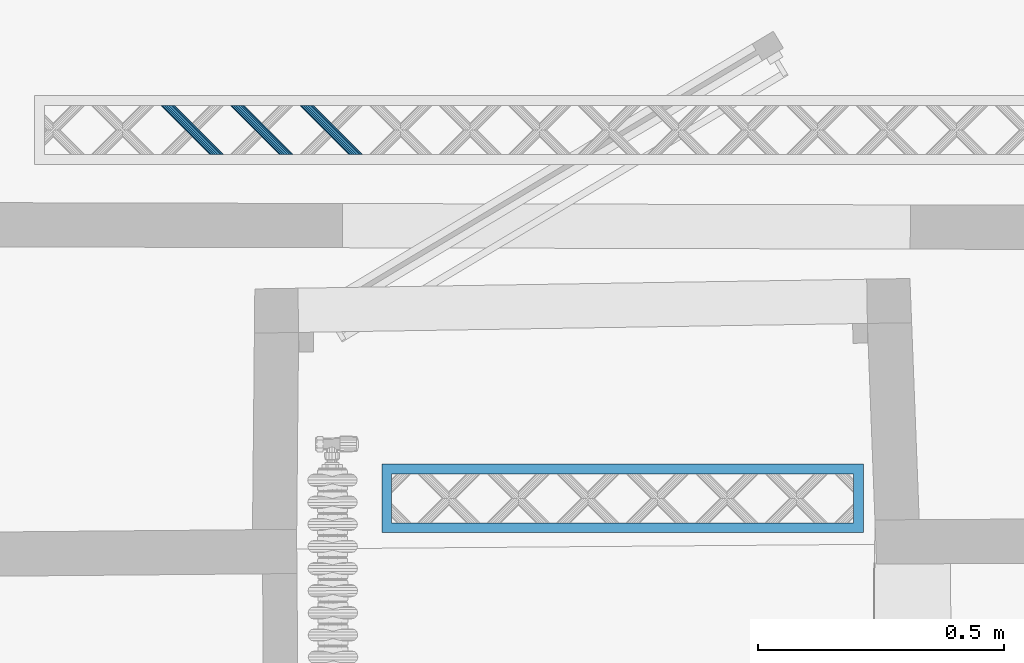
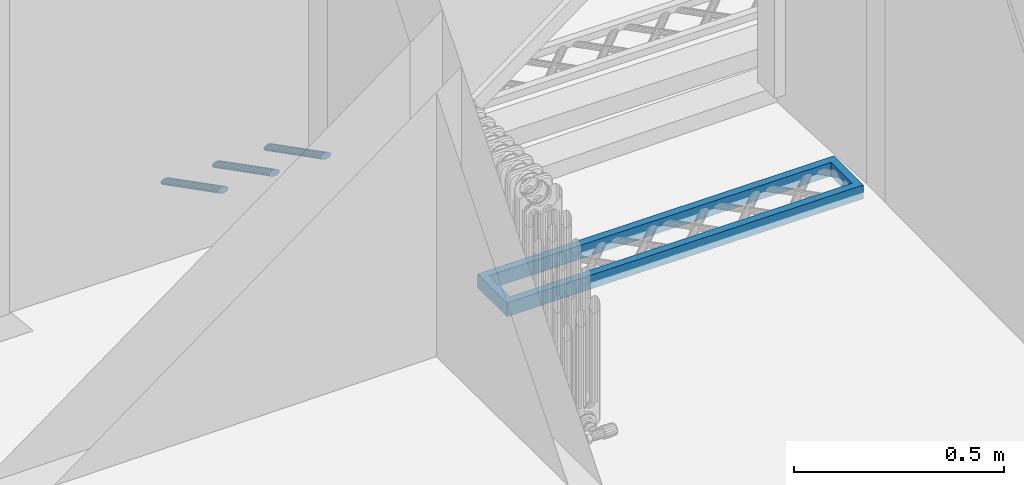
# One storey, part 64 of 133: 4 members, 2 elements without a shape of their own.
"""IFC2X3 building model written with IfcOpenShell, lengths in centimetres."""

from ifc_helpers import new_model, entity, si_unit, converted_unit, direction, frame, origin, origin_with_axes, place, context, subcontext, project, spatial, faceted_brep, material, type_object, element, aggregate, save


model = new_model("IFC2X3")

# Units and contexts
model_context = context("Model", 3, precision=0.0001, world=origin(), true_north=direction((0.225632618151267, 0.974212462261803, 0.0)))
body_context = subcontext(model_context, "Body", "Model", "MODEL_VIEW")
ifc_project = project(units=[si_unit("LENGTHUNIT", "METRE", prefix="CENTI"), si_unit("AREAUNIT", "SQUARE_METRE", prefix="CENTI"), si_unit("VOLUMEUNIT", "CUBIC_METRE", prefix="CENTI"), converted_unit("PLANEANGLEUNIT", "DEGREE", entity("IfcRatioMeasure", 0.0174532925), si_unit("PLANEANGLEUNIT", "RADIAN"), dimensions=[0, 0, 0, 0, 0, 0, 0])], contexts=[model_context])

# Site, building, storey
site_placement = place(None, origin_with_axes())
site = spatial("IfcSite", under=ifc_project, at=site_placement, Name="Default Site", CompositionType="ELEMENT")
building_placement = place(site_placement, origin_with_axes())
building = spatial("IfcBuilding", under=site, at=building_placement, Name="Default Building", CompositionType="ELEMENT")
storey_placement = place(building_placement, frame((0.0, 0.0, -291.400371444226), z_axis=(0.0, 0.0, 1.0), x_axis=(1.0, 0.0, 0.0)))
storey = spatial("IfcBuildingStorey", under=building, at=storey_placement, Name="Rez-de-Jardin", CompositionType="ELEMENT", Elevation=-291.400371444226)

# Assembly, members
building_element_proxy_type = type_object("IfcBuildingElementProxyType", Name="Type Object", PredefinedType="NOTDEFINED")
assembly_1_placement = place(storey_placement, frame((-322.682568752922, 627.125798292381, 0.0), z_axis=(0.0, 1.0, -2.38697950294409e-15), x_axis=(1.0, 0.0, 0.0)))
assembly_1 = element("IfcElementAssembly", 1, at=assembly_1_placement, inside=storey, type_object=building_element_proxy_type, Name="Panneau 92029", ObjectType="Precast panel", PredefinedType="USERDEFINED")
ifc_material = material(Name="Aluminium satiné")
member_1_placement = place(assembly_1_placement, frame((64.0314638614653, 0.342020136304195, 1.99999995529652), z_axis=(1.16937776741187e-15, 1.43218081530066e-15, -1.0), x_axis=(-0.632457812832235, -0.774594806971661, -1.84894192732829e-15)))
member_1 = element("IfcMember", 2, at=member_1_placement, material=ifc_material, Name="4294966800", context=body_context, shape_type="Brep", body=[
    faceted_brep([(-4.44089209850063e-14, 4.9960036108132e-14, 7.42461647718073e-14), (-0.388290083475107, 4.9960036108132e-14, 7.49640905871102e-14), (-0.799166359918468, -0.150246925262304, 7.57237769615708e-14), (-1.18307325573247, -0.43262135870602, 7.64335985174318e-14), (-1.49370756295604, -0.813066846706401, 7.70079433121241e-14), (-1.69359804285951, -1.24569095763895, 7.73775292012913e-14), (-1.75863665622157, -1.67831484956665, 7.74977818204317e-14), (-1.68098087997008, -2.05876033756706, 7.73542007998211e-14), (-1.4699913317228, -2.34113289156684, 7.69640933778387e-14), (-1.15112683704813, -2.49138695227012, 7.63745314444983e-14), (-0.762836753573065, -2.49138695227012, 7.56566056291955e-14), (-0.351960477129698, -2.34114002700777, 7.48969192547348e-14), (0.0319464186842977, -2.05876559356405, 7.41870976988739e-14), (0.342580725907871, -1.67832010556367, 7.36127529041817e-14), (0.542471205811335, -1.24569599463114, 7.32431670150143e-14), (0.607509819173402, -0.813072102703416, 7.31229143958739e-14), (0.529854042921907, -0.43262661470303, 7.32664954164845e-14), (0.318868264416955, -0.150249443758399, 7.36565958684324e-14), (6.64344790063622, 7.59570047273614, -9.99999977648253), (6.85443367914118, 7.31332330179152, -9.99999977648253), (6.93208945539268, 6.93287781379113, -9.99999977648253), (6.86705084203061, 6.50025392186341, -9.99999977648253), (6.66716036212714, 6.06762981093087, -9.99999977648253), (6.35652605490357, 5.68718432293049, -9.99999977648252), (5.97261915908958, 5.40480988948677, -9.99999977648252), (5.56174288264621, 5.25456296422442, -9.99999977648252), (5.17345279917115, 5.25456296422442, -9.99999977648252), (4.85458453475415, 5.40481240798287, -9.99999977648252), (4.6435987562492, 5.6871895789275, -9.99999977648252), (4.5659429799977, 6.06763506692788, -9.99999977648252), (4.63098159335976, 6.50025895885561, -9.99999977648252), (4.83087207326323, 6.93288306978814, -9.99999977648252), (5.1415063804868, 7.31332855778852, -9.99999977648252), (5.52541327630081, 7.59570299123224, -9.99999977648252), (5.93628955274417, 7.74594991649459, -9.99999977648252), (6.32457963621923, 7.7459499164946, -9.99999977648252), (0.318868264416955, -0.150249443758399, 7.3899220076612e-14), (0.529854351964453, -0.432626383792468, 3.74318568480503e-07), (6.85443294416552, 7.31332275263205, -10.0000006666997), (6.64344685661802, 7.59569969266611, -10.0000010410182), (0.529854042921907, -0.43262661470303, 7.35522753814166e-14), (0.607510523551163, -0.813071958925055, 5.56859263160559e-07), (6.93208892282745, 6.93287770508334, -10.0000001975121), (6.8544324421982, 7.31332304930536, -10.0000007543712), (0.607509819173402, -0.813072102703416, 7.32053306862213e-14), (0.542470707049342, -1.24569591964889, -2.57364991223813e-07), (6.86704929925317, 6.50025415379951, -10.0000005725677), (6.93208841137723, 6.93287797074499, -10.0000003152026), (0.542471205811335, -1.24569599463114, 7.32053306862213e-14), (0.342580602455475, -1.67832004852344, -3.38952936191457e-08), (6.66715968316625, 6.06763012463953, -9.99999996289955), (6.86705028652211, 6.50025417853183, -9.99999992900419), (0.342580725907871, -1.67832010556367, 7.35522753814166e-14), (0.0319464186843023, -2.05876559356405, 7.42461647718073e-14), (6.66716036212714, 6.06762981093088, -9.99999977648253), (0.0319464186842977, -2.05876559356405, 7.42461647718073e-14), (-0.351960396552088, -2.34114013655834, -3.3895289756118e-08), (5.97261960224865, 5.40480928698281, -9.99999996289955), (6.35652641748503, 5.6871838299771, -9.99999992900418), (-0.351960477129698, -2.34114002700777, 7.49400541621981e-14), (-0.762836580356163, -2.49138742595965, -2.57364989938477e-07), (5.5617434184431, 5.25456149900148, -10.0000005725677), (5.97261952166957, 5.40480889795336, -10.0000003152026), (-0.762836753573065, -2.49138695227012, 7.56339435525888e-14), (-1.151126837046, -2.49138623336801, 5.56859265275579e-07), (5.17345279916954, 5.25456242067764, -10.0000001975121), (5.56174288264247, 5.25456170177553, -10.0000007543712), (-1.15112683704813, -2.49138695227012, 7.66747776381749e-14), (-1.46999243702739, -2.34113523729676, -2.51604866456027e-06), (4.85458414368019, 5.40481157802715, -10.0000006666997), (5.17345224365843, 5.25456178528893, -10.0000010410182), (-1.4699913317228, -2.34113289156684, 7.70217223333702e-14), (-1.6809788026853, -2.0587587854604, 2.51604882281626e-06), (4.64359978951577, 5.68719035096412, -9.99999852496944), (4.85458587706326, 5.40481341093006, -9.99999815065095), (-1.68098087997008, -2.05876033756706, 7.73686670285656e-14), (-1.75863736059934, -1.67831499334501, -5.5685911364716e-07), (4.56594103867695, 6.06763467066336, -10.0000013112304), (4.64359751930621, 5.68718932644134, -10.0000007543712), (-1.75863665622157, -1.67831484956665, 7.7715611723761e-14), (-1.69359754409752, -1.24569103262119, 2.57365143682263e-07), (4.63098104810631, 6.50025904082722, -10.0000000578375), (4.56594193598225, 6.06763522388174, -10.0000003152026), (-1.69359804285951, -1.24569095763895, 7.7715611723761e-14), (-1.49370743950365, -0.813066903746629, 3.38954441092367e-08), (4.83087164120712, 6.93288326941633, -9.99999989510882), (4.63098103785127, 6.50025921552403, -9.99999992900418), (-1.49370756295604, -0.813066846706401, 7.70217223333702e-14), (-1.18307325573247, -0.432621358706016, 7.63278329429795e-14), (5.14150638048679, 7.31332855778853, -9.99999977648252), (4.83087207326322, 6.93288306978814, -9.99999977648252), (-1.18307325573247, -0.43262135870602, 7.63278329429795e-14), (-0.799166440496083, -0.150246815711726, 3.3895442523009e-08), (5.52541355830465, 7.59570260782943, -9.99999989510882), (5.14150674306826, 7.31332806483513, -9.99999992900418), (-0.799166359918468, -0.150246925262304, 7.59808882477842e-14), (-0.388290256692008, 4.73689576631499e-07, 2.57365140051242e-07), (5.93628974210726, 7.74594939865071, -10.0000000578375), (5.5254136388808, 7.59570199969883, -10.0000003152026), (-0.388290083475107, 4.9960036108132e-14, 7.52869988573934e-14), (-2.17403426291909e-12, -7.18902060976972e-07, -5.56859114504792e-07), (6.32457963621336, 7.7459479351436, -10.0000013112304), (5.93628955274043, 7.7459486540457, -10.0000007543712), (0.318868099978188, -0.150249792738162, -3.74318421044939e-07), (6.64344718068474, 7.5956989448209, -10.0000014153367), (6.32457908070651, 7.74594873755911, -10.0000010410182)], [[[0, 1, 2, 3, 4, 5, 6, 7, 8, 9, 10, 11, 12, 13, 14, 15, 16, 17]], [[18, 19, 20, 21, 22, 23, 24, 25, 26, 27, 28, 29, 30, 31, 32, 33, 34, 35]], [[36, 37, 38, 39]], [[40, 41, 42, 43]], [[44, 45, 46, 47]], [[48, 49, 50, 51]], [[52, 53, 23, 54]], [[55, 56, 57, 58]], [[59, 60, 61, 62]], [[63, 64, 65, 66]], [[67, 68, 69, 70]], [[71, 72, 73, 74]], [[75, 76, 77, 78]], [[79, 80, 81, 82]], [[83, 84, 85, 86]], [[87, 88, 89, 90]], [[91, 92, 93, 94]], [[95, 96, 97, 98]], [[99, 100, 101, 102]], [[0, 103, 104, 105]]]),
])
member_2_placement = place(assembly_1_placement, frame((49.8893290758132, 0.342020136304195, 1.99999995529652), z_axis=(1.16937492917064e-15, 1.4321947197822e-15, -1.0), x_axis=(-0.632453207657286, -0.774598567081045, -1.84895090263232e-15)))
member_2 = element("IfcMember", 3, at=member_2_placement, material=ifc_material, Name="4294966799", context=body_context, shape_type="Brep", body=[
    faceted_brep([(5.55111512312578e-15, -2.77555756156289e-14, 2.36269337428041e-13), (-0.388288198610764, -2.22044604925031e-14, 2.36987263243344e-13), (-0.799163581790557, -0.150249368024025, 2.37746951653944e-13), (-1.18306879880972, -0.432626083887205, 2.38456773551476e-13), (-1.49370084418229, -0.813073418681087, 2.39031116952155e-13), (-1.6935887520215, -1.24569871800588, 2.39400699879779e-13), (-1.75862479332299, -1.6783229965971, 2.39520948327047e-13), (-1.68096675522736, -2.05876802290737, 2.39377362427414e-13), (-1.46997929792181, -2.34114393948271, 2.38987256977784e-13), (-1.15111014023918, -2.49139148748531, 2.38397683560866e-13), (-0.762820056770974, -2.49138917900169, 2.37679754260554e-13), (-0.351944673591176, -2.34113981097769, 2.36920065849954e-13), (0.0319605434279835, -2.05876309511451, 2.36210243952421e-13), (0.342592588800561, -1.67831576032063, 2.35635900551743e-13), (0.542480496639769, -1.24569046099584, 2.35266317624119e-13), (0.607516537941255, -0.813066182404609, 2.35146069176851e-13), (0.529856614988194, -0.432623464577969, 2.35289658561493e-13), (0.318869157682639, -0.150247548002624, 2.35679764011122e-13), (6.643400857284, 7.59573766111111, -9.99999977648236), (6.85439019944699, 7.31336405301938, -9.99999977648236), (6.93204823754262, 6.93291902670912, -9.99999977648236), (6.86701219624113, 6.5002947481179, -9.99999977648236), (6.66712240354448, 6.06766714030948, -9.99999977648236), (6.35649224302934, 5.68722211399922, -9.99999977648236), (5.97258702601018, 5.40484539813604, -9.99999977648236), (5.56171164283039, 5.25459603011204, -9.99999977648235), (5.17342155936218, 5.25459372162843, -9.99999977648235), (4.85455428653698, 5.40484357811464, -9.99999977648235), (4.64356494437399, 5.68721718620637, -9.99999977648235), (4.56590690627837, 6.06766221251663, -9.99999977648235), (4.63094294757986, 6.50028649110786, -9.99999977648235), (4.83083085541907, 6.93291179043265, -9.99999977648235), (5.14146101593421, 7.31335681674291, -9.99999977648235), (5.5253681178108, 7.59573584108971, -9.99999977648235), (5.9362435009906, 7.74598520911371, -9.99999977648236), (6.3245335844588, 7.74598751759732, -9.99999977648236), (0.318869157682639, -0.150247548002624, 2.35922392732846e-13), (0.529856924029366, -0.432623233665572, 3.74318727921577e-07), (6.8543894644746, 7.31336350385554, -10.0000006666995), (6.64340100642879, 7.59573777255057, -9.9999995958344), (0.529856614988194, -0.432623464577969, 2.3557544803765e-13), (0.607515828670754, -0.813066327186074, -5.60727683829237e-07), (6.93204770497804, 6.93291891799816, -10.0000001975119), (6.85438896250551, 7.31336380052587, -10.0000007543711), (0.607516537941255, -0.813066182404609, 2.35228503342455e-13), (0.542479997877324, -1.24569038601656, -2.57364832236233e-07), (6.86701184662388, 6.50029480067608, -9.99999995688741), (6.93204838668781, 6.93291900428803, -9.99999969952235), (0.542480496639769, -1.24569046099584, 2.35228503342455e-13), (0.34259246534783, -1.67831570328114, -3.38951300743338e-08), (6.66712299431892, 6.06766686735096, -9.99999961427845), (6.8670122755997, 6.50029471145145, -9.99999975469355), (0.342592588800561, -1.67831576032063, 2.35922392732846e-13), (0.0319605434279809, -2.05876309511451, 2.36269337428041e-13), (6.35649224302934, 5.68722211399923, -9.99999977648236), (0.0319605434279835, -2.05876309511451, 2.36269337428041e-13), (-0.351944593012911, -2.34113992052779, -3.38951289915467e-08), (5.97258705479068, 5.40484535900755, -9.99999978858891), (6.35649219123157, 5.68722218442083, -9.99999975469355), (-0.351944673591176, -2.34113981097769, 2.36963226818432e-13), (-0.762819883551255, -2.49138965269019, -2.57364829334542e-07), (5.56171176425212, 5.25459569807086, -9.99999995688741), (5.9725869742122, 5.40484553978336, -9.99999969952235), (-0.762820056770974, -2.49138917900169, 2.37657116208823e-13), (-1.15111014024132, -2.4913907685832, 5.56859427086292e-07), (5.1734215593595, 5.25459462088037, -9.99999907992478), (5.56171164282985, 5.25459621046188, -9.99999963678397), (-1.15111014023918, -2.49139148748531, 2.38697950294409e-13), (-1.46997913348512, -2.34114359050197, 3.74318731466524e-07), (4.85455389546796, 5.40484274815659, -10.0000006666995), (5.17342163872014, 5.25459389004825, -9.9999995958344), (-1.46997929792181, -2.34114393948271, 2.39044894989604e-13), (-1.68096706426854, -2.05876825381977, -3.74318253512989e-07), (4.64356478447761, 5.68721706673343, -9.99999997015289), (4.85455324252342, 5.4048427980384, -10.000001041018), (-1.68096675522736, -2.05876802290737, 2.39391839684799e-13), (-1.7586254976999, -1.67832314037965, -5.56858947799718e-07), (4.56590637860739, 6.06766210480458, -10.0000001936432), (4.64356512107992, 5.68721722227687, -9.99999963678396), (-1.75862479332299, -1.6783229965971, 2.39738784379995e-13), (-1.69358825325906, -1.24569879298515, 2.57365304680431e-07), (4.63094359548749, 6.50028639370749, -9.99999944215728), (4.56590705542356, 6.06766219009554, -9.99999969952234), (-1.6935887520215, -1.24569871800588, 2.39738784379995e-13), (-1.49370072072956, -0.81307347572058, 3.38956050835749e-08), (4.83083105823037, 6.93291169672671, -9.99999972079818), (4.63094302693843, 6.50028645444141, -9.99999975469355), (-1.49370084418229, -0.813073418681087, 2.39044894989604e-13), (-1.18306879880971, -0.432626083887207, 2.38697950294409e-13), (4.83083085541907, 6.93291179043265, -9.99999977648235), (-1.18306879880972, -0.432626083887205, 2.38697950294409e-13), (-0.799163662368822, -0.150249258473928, 3.38956040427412e-08), (5.52536798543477, 7.59573602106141, -9.99999972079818), (5.14146054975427, 7.31335745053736, -9.99999958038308), (-0.799163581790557, -0.150249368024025, 2.38004060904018e-13), (-0.388288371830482, 4.73688473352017e-07, 2.57365301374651e-07), (5.93624327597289, 7.74598582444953, -9.99999944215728), (5.52536806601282, 7.59573598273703, -9.99999969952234), (-0.388288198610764, -2.22044604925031e-14, 2.37310171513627e-13), (-2.1537782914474e-12, 7.23896598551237e-07, 5.60728160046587e-07), (6.32453358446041, 7.74598697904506, -10.0000001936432), (5.93624350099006, 7.74598538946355, -9.99999963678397), (0.318868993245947, -0.150247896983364, -3.74318258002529e-07), (6.64340077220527, 7.59573748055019, -9.9999999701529), (6.32453302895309, 7.74598633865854, -10.000001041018)], [[[0, 1, 2, 3, 4, 5, 6, 7, 8, 9, 10, 11, 12, 13, 14, 15, 16, 17]], [[18, 19, 20, 21, 22, 23, 24, 25, 26, 27, 28, 29, 30, 31, 32, 33, 34, 35]], [[36, 37, 38, 39]], [[40, 41, 42, 43]], [[44, 45, 46, 47]], [[48, 49, 50, 51]], [[52, 53, 54, 22]], [[55, 56, 57, 58]], [[59, 60, 61, 62]], [[63, 64, 65, 66]], [[67, 68, 69, 70]], [[71, 72, 73, 74]], [[75, 76, 77, 78]], [[79, 80, 81, 82]], [[83, 84, 85, 86]], [[87, 88, 32, 89]], [[90, 91, 92, 93]], [[94, 95, 96, 97]], [[98, 99, 100, 101]], [[0, 102, 103, 104]]]),
])
member_3_placement = place(assembly_1_placement, frame((35.7471913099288, 0.342020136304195, 1.99999995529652), z_axis=(1.16937776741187e-15, 1.43218081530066e-15, -1.0), x_axis=(-0.632457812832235, -0.774594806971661, -1.84894192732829e-15)))
member_3 = element("IfcMember", 4, at=member_3_placement, material=ifc_material, Name="4294966798", context=body_context, shape_type="Brep", body=[
    faceted_brep([(-4.16333634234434e-14, 9.43689570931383e-14, 4.09394740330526e-14), (-0.38829008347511, 9.43689570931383e-14, 4.16573998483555e-14), (-0.799166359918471, -0.150246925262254, 4.24170862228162e-14), (-1.18307325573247, -0.432621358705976, 4.31269077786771e-14), (-1.49370567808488, -0.813064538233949, 4.3701249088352e-14), (-1.69359804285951, -1.2456909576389, 4.40708384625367e-14), (-1.75863665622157, -1.67831484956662, 4.41910910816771e-14), (-1.68098087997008, -2.058760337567, 4.40475100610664e-14), (-1.46999321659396, -2.34113520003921, 4.36574061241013e-14), (-1.15112683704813, -2.49138695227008, 4.30678407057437e-14), (-0.762836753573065, -2.49138695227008, 4.23499148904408e-14), (-0.351960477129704, -2.34114002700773, 4.15902285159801e-14), (0.0319483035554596, -2.0587632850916, 4.08804034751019e-14), (0.342580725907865, -1.67832010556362, 4.0306062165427e-14), (0.542471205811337, -1.24569599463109, 3.99364762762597e-14), (0.607509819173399, -0.813072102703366, 3.98162236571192e-14), (0.529854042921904, -0.432626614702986, 3.99598046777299e-14), (0.318866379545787, -0.150251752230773, 4.0349908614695e-14), (6.64344601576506, 7.59569816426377, -9.99999977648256), (6.85443179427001, 7.31332099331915, -9.99999977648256), (6.93208757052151, 6.93287550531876, -9.99999977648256), (6.86704895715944, 6.50025161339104, -9.99999977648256), (6.66715847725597, 6.06762750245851, -9.99999977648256), (6.35652605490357, 5.68718432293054, -9.99999977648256), (5.97261915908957, 5.40480988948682, -9.99999977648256), (5.56174099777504, 5.25456065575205, -9.99999977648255), (5.17345279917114, 5.25456296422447, -9.99999977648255), (4.85458453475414, 5.40481240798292, -9.99999977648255), (4.64359875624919, 5.68718957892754, -9.99999977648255), (4.56594109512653, 6.06763275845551, -9.99999977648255), (4.63098159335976, 6.50025895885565, -9.99999977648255), (4.83087207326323, 6.93288306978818, -9.99999977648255), (5.14150449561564, 7.31332624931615, -9.99999977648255), (5.52541139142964, 7.59570068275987, -9.99999977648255), (5.936287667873, 7.74594760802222, -9.99999977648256), (6.32457775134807, 7.74594760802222, -9.99999977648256), (0.318866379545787, -0.150251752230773, 4.05925293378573e-14), (0.52985315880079, -0.432627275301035, -1.0708650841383e-06), (6.85443105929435, 7.31332044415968, -10.0000006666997), (6.64344497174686, 7.59569738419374, -10.0000010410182), (0.529854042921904, -0.432626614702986, 4.02455846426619e-14), (0.607510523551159, -0.813071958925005, 5.56859229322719e-07), (6.93208845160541, 6.93287568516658, -9.99999907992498), (6.85443197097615, 7.3133210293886, -9.99999963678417), (0.607509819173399, -0.813072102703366, 3.98986399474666e-14), (0.54247070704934, -1.24569591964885, -2.57365026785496e-07), (6.86704860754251, 6.5002516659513, -9.99999995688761), (6.93208771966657, 6.93287548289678, -9.99999969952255), (0.542471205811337, -1.24569599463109, 4.02455846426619e-14), (0.342580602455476, -1.6783200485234, -3.38953248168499e-08), (6.66715843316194, 6.06762752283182, -9.99999978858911), (6.8670490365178, 6.50025157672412, -9.99999975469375), (0.342580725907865, -1.67832010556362, 4.05925293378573e-14), (0.0319483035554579, -2.0587632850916, 4.1286418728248e-14), (6.35652605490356, 5.68718432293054, -9.99999977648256), (0.0319483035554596, -2.0587632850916, 4.1286418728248e-14), (-0.351960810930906, -2.341139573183, 1.40415145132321e-07), (5.97261918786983, 5.40480985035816, -9.99999978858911), (6.35652600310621, 5.68718439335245, -9.99999975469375), (-0.351960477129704, -2.34114002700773, 4.16333634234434e-14), (-0.762836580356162, -2.49138742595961, -2.57365024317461e-07), (5.5617411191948, 5.25456032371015, -9.99999995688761), (5.97261952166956, 5.4048088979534, -10.0000003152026), (-0.762836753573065, -2.49138695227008, 4.26741975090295e-14), (-1.151126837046, -2.49138623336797, 5.56859231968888e-07), (5.17345279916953, 5.25456242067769, -10.0000001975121), (5.56174099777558, 5.25456083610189, -9.99999963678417), (-1.15112683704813, -2.49138695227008, 4.33680868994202e-14), (-1.46999368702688, -2.34113619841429, -1.0708650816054e-06), (4.85458414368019, 5.40481157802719, -10.0000006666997), (5.17345224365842, 5.25456178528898, -10.0000010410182), (-1.46999321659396, -2.34113520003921, 4.40619762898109e-14), (-1.68097999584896, -2.05875967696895, 1.07086516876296e-06), (4.64359859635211, 5.68718945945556, -9.99999997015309), (4.8545846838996, 5.40481251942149, -9.9999995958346), (-1.68098087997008, -2.058760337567, 4.40619762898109e-14), (-1.75863736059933, -1.67831499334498, -5.56859144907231e-07), (4.56594056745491, 6.0676326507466, -10.0000001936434), (4.64359751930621, 5.68718932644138, -10.0000007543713), (-1.75863665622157, -1.67831484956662, 4.47558656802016e-14), (-1.69359754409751, -1.24569103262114, 2.57365111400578e-07), (4.63098104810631, 6.50025904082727, -10.0000000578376), (4.5659412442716, 6.06763273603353, -9.99999969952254), (-1.69359804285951, -1.2456909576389, 4.44089209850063e-14), (-1.49370618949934, -0.813064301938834, -1.40415060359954e-07), (4.83087164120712, 6.93288326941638, -9.99999989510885), (4.63098103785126, 6.50025921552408, -9.99999992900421), (-1.49370567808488, -0.813064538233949, 4.40619762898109e-14), (-1.18307325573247, -0.432621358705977, 4.33680868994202e-14), (-1.18307325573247, -0.432621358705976, 4.33680868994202e-14), (-0.799166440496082, -0.150246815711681, 3.38954081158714e-08), (5.52541125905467, 7.59570086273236, -9.99999972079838), (5.14150444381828, 7.31332631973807, -9.99999975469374), (-0.799166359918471, -0.150246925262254, 4.30211422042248e-14), (-0.388290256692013, 4.73689625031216e-07, 2.57365108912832e-07), (5.93628744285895, 7.74594822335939, -9.99999944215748), (5.52541133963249, 7.59570082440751, -9.99999969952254), (-0.38829008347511, 9.43689570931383e-14, 4.19803081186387e-14), (-2.17125870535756e-12, -7.18902016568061e-07, -5.56859147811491e-07), (6.32457775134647, 7.74594706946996, -10.0000001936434), (5.93628766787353, 7.74594778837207, -9.99999963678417), (0.318866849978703, -0.150250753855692, 1.07086516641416e-06), (6.64344593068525, 7.59569798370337, -9.9999999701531), (6.32457783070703, 7.74594777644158, -9.9999995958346)], [[[0, 1, 2, 3, 4, 5, 6, 7, 8, 9, 10, 11, 12, 13, 14, 15, 16, 17]], [[18, 19, 20, 21, 22, 23, 24, 25, 26, 27, 28, 29, 30, 31, 32, 33, 34, 35]], [[36, 37, 38, 39]], [[40, 41, 42, 43]], [[44, 45, 46, 47]], [[48, 49, 50, 51]], [[52, 53, 54, 22]], [[55, 56, 57, 58]], [[59, 60, 61, 62]], [[63, 64, 65, 66]], [[67, 68, 69, 70]], [[71, 72, 73, 74]], [[75, 76, 77, 78]], [[79, 80, 81, 82]], [[83, 84, 85, 86]], [[87, 88, 32, 31]], [[89, 90, 91, 92]], [[93, 94, 95, 96]], [[97, 98, 99, 100]], [[0, 101, 102, 103]]]),
])
aggregate(assembly_1, [member_1, member_2, member_3])

# Assembly, member
assembly_2_placement = place(storey_placement, frame((-251.995147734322, 552.177521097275, 0.0), z_axis=(0.0, 1.0, -2.38697950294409e-15), x_axis=(1.0, 0.0, 0.0)))
assembly_2 = element("IfcElementAssembly", 5, at=assembly_2_placement, inside=storey, type_object=building_element_proxy_type, Name="Panneau 92047", ObjectType="Precast panel", PredefinedType="USERDEFINED")
member_4_placement = place(assembly_2_placement, frame((1.99999995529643, 1.99999995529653, 11.9999997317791), z_axis=(0.999999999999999, 8.28149876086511e-32, -3.46944695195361e-17), x_axis=(0.0, 1.0, 2.38697950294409e-15)))
member_4 = element("IfcMember", 6, at=member_4_placement, material=ifc_material, Name="4294966755", context=body_context, shape_type="Brep", body=[
    faceted_brep([(-6.00214322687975e-14, -4.16333634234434e-15, -3.46944695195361e-16), (-3.99999991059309, 4.16333634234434e-15, -3.46944695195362e-16), (-3.99999991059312, -9.99999977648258, -3.46944695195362e-16), (-8.39606162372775e-14, -9.99999977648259, -3.46944695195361e-16), (-3.99999991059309, 4.16333634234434e-15, -3.46944695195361e-16), (-3.99999991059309, 2.00000032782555, -1.99999995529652), (-3.99999991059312, -11.9999997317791, -1.99999995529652), (-3.99999991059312, -9.99999977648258, 5.74644412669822e-47), (-5.55111512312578e-14, 2.00000032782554, -1.99999995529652), (-8.88178419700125e-14, -11.9999997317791, -1.99999995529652), (-6.02851110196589e-14, -4.16333634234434e-15, -3.46944695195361e-16), (-8.41549055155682e-14, -9.99999977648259, -1.60900641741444e-47), (-8.89288644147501e-14, -11.9999997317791, -1.99999995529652), (-8.39606162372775e-14, -9.99999977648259, 0.0), (-3.99999991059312, -9.99999977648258, -5.94169874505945e-32), (-3.99999991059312, -9.99999977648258, 93.9999978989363), (-8.39606162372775e-14, -9.99999977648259, 93.9999978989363), (-3.99999991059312, -9.99999977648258, 0.0), (-3.99999991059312, -11.9999997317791, 96.0000019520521), (-3.99999991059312, -9.99999977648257, 93.9999978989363), (-8.88178419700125e-14, -11.9999997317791, 96.0000019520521), (-8.40438830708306e-14, -9.99999977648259, -6.8957417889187e-48), (-8.40438830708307e-14, -9.99999977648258, 93.9999978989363), (-8.39606162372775e-14, -9.99999977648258, 93.9999978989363), (-3.99999991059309, 6.93889390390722e-15, 93.9999978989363), (-6.00214322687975e-14, -1.38777878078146e-15, 93.9999978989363), (-3.99999991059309, 2.00000032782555, 96.0000019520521), (-3.99999991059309, 6.93889390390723e-15, 93.9999978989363), (-5.55111512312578e-14, 2.00000032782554, 96.0000019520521), (-8.40438830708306e-14, -9.99999977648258, 93.9999978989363), (-6.01740885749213e-14, -1.38777878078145e-15, 93.9999978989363), (-5.54001287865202e-14, 2.00000032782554, 96.0000019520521), (-6.00214322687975e-14, -1.38777878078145e-15, 93.9999978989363), (-3.99999991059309, 8.16013901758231e-15, 93.9999978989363), (-3.99999991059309, 4.8988589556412e-15, -3.46944695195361e-16), (-6.00214322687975e-14, -4.64905884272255e-15, -3.46944695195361e-16), (-6.02851110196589e-14, -1.38777878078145e-15, 93.9999978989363)], [[[0, 1, 2, 3]], [[4, 5, 6, 7]], [[5, 8, 9, 6]], [[8, 10, 11, 12]], [[13, 14, 15, 16]], [[17, 6, 18, 19]], [[6, 9, 20, 18]], [[9, 21, 22, 20]], [[23, 19, 24, 25]], [[19, 18, 26, 27]], [[18, 20, 28, 26]], [[20, 29, 30, 31]], [[32, 33, 34, 35]], [[27, 26, 5, 4]], [[26, 28, 8, 5]], [[28, 36, 10, 8]]]),
])
aggregate(assembly_2, [member_4])

save(model, "model.ifc")
